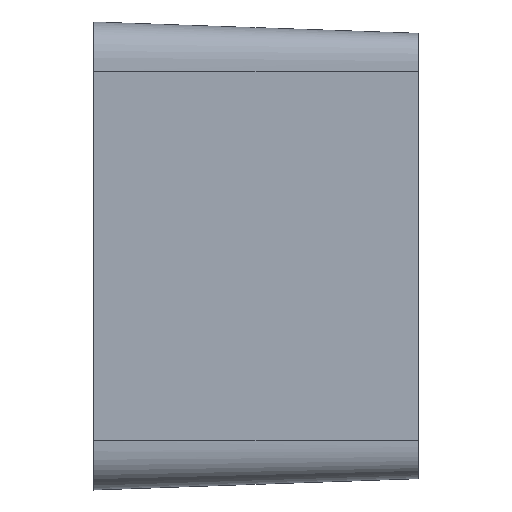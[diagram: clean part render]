
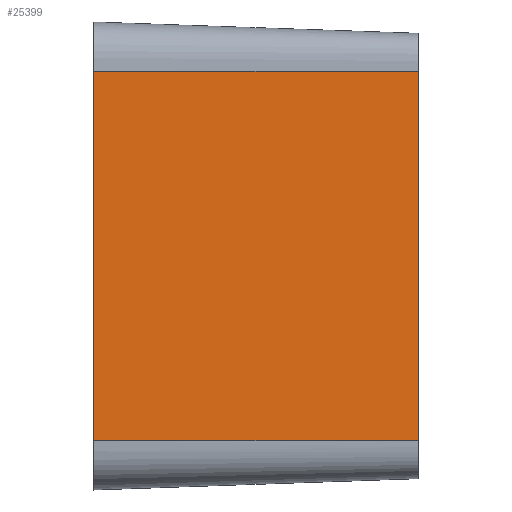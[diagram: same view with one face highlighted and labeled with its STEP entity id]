
A CAD part, left-side view. The second image highlights one B-rep face of the part: STEP entity #25399.
In plain terms, the highlighted planar face has unit normal (-0.999, -0.035, 0).
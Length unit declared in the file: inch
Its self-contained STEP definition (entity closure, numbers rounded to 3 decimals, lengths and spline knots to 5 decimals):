
#305 = ORIENTED_EDGE ( 'NONE', *, *, #38769, .F. ) ;
#3523 = VERTEX_POINT ( 'NONE', #26003 ) ;
#6049 = EDGE_LOOP ( 'NONE', ( #305, #16432, #38848, #9603 ) ) ;
#7572 = CARTESIAN_POINT ( 'NONE',  ( -12.98317, 0., -5.44927 ) ) ;
#8756 = CARTESIAN_POINT ( 'NONE',  ( -12.98317, 0., -5.44927 ) ) ;
#9603 = ORIENTED_EDGE ( 'NONE', *, *, #24178, .T. ) ;
#10330 = AXIS2_PLACEMENT_3D ( 'NONE', #16624, #16887, #38211 ) ;
#11455 = LINE ( 'NONE', #34269, #27765 ) ;
#11943 = VERTEX_POINT ( 'NONE', #34451 ) ;
#12928 = DIRECTION ( 'NONE',  ( 0., 0., 1. ) ) ;
#15606 = CARTESIAN_POINT ( 'NONE',  ( -12.98317, 0., 5.45005 ) ) ;
#15893 = LINE ( 'NONE', #7572, #32176 ) ;
#16432 = ORIENTED_EDGE ( 'NONE', *, *, #34244, .F. ) ;
#16624 = CARTESIAN_POINT ( 'NONE',  ( -12.98317, 0., -5.44927 ) ) ;
#16746 = VERTEX_POINT ( 'NONE', #23325 ) ;
#16887 = DIRECTION ( 'NONE',  ( -0.999, -0.035, 0. ) ) ;
#17107 = FACE_OUTER_BOUND ( 'NONE', #6049, .T. ) ;
#18561 = VECTOR ( 'NONE', #32080, 39.37008 ) ;
#20585 = VECTOR ( 'NONE', #36564, 39.37008 ) ;
#22640 = VERTEX_POINT ( 'NONE', #15606 ) ;
#22724 = PLANE ( 'NONE',  #10330 ) ;
#23325 = CARTESIAN_POINT ( 'NONE',  ( -12.98317, 0., -5.44927 ) ) ;
#24178 = EDGE_CURVE ( 'NONE', #11943, #22640, #25717, .T. ) ;
#25399 = ADVANCED_FACE ( 'NONE', ( #17107 ), #22724, .T. ) ;
#25717 = LINE ( 'NONE', #29008, #18561 ) ;
#26003 = CARTESIAN_POINT ( 'NONE',  ( -12.64898, -9.57, -5.44938 ) ) ;
#27765 = VECTOR ( 'NONE', #12928, 39.37008 ) ;
#28725 = LINE ( 'NONE', #8756, #20585 ) ;
#29008 = CARTESIAN_POINT ( 'NONE',  ( -12.98317, 0., 5.45005 ) ) ;
#29038 = DIRECTION ( 'NONE',  ( -0.035, 0.999, 0. ) ) ;
#32080 = DIRECTION ( 'NONE',  ( -0.035, 0.999, 0. ) ) ;
#32176 = VECTOR ( 'NONE', #29038, 39.37008 ) ;
#34244 = EDGE_CURVE ( 'NONE', #3523, #16746, #15893, .T. ) ;
#34269 = CARTESIAN_POINT ( 'NONE',  ( -12.64898, -9.57, -5.44927 ) ) ;
#34451 = CARTESIAN_POINT ( 'NONE',  ( -12.64898, -9.57, 5.45005 ) ) ;
#36564 = DIRECTION ( 'NONE',  ( 0., 0., 1. ) ) ;
#38211 = DIRECTION ( 'NONE',  ( 0.035, -0.999, 0. ) ) ;
#38769 = EDGE_CURVE ( 'NONE', #16746, #22640, #28725, .T. ) ;
#38830 = EDGE_CURVE ( 'NONE', #3523, #11943, #11455, .T. ) ;
#38848 = ORIENTED_EDGE ( 'NONE', *, *, #38830, .T. ) ;
